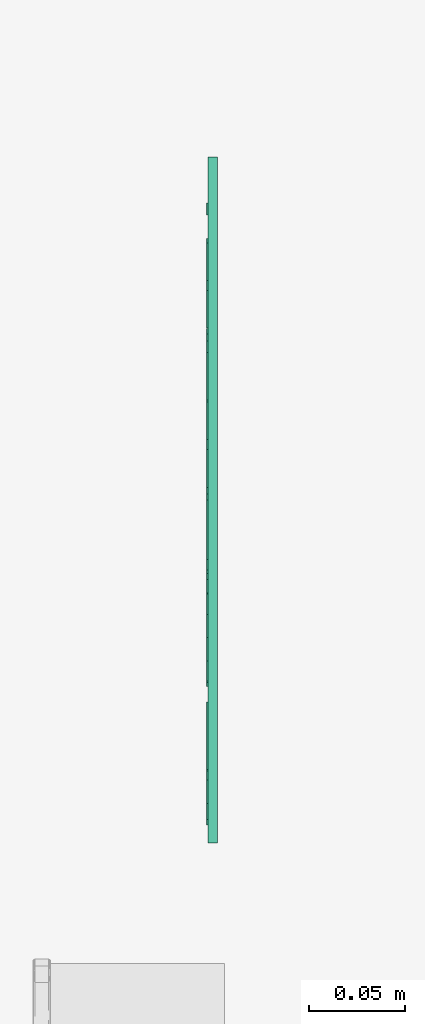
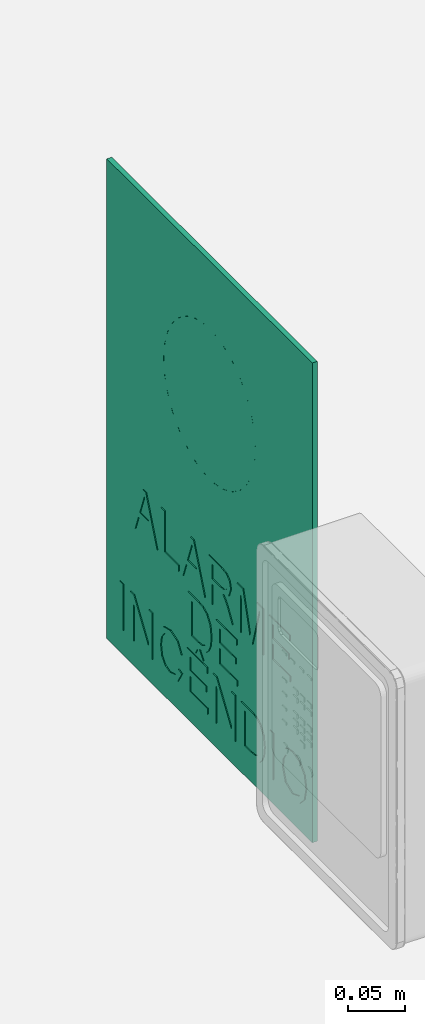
# One storey, part 4 of 6: 1 flow terminal.
"""IFC2X3 building model written with IfcOpenShell, lengths in metres."""

from ifc_helpers import new_model, entity, si_unit, converted_unit, derived_unit, direction, frame, frame_2d, origin, place, context, subcontext, project, spatial, polyline, circle_curve, parameter, trimmed, segment, composite_curve, rectangle, circle, hollow_circle, outline, extrude, source, transform, mapped, material, material_list, type_object, type_shapes, element, save


model = new_model("IFC2X3")

# Units and contexts
model_context = context("Model", 3, precision=1e-05, world=origin(), true_north=direction((6.12303176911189e-17, 1.0)))
body_context = subcontext(model_context, "Body", "Model", "MODEL_VIEW")
ifc_project = project(units=[si_unit("LENGTHUNIT", "METRE"), si_unit("AREAUNIT", "SQUARE_METRE"), si_unit("VOLUMEUNIT", "CUBIC_METRE"), converted_unit("PLANEANGLEUNIT", "DEGREE", entity("IfcRatioMeasure", 0.0174532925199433), si_unit("PLANEANGLEUNIT", "RADIAN"), dimensions=[0, 0, 0, 0, 0, 0, 0]), si_unit("MASSUNIT", "GRAM", prefix="KILO"), derived_unit("MASSDENSITYUNIT", [(si_unit("MASSUNIT", "GRAM", prefix="KILO"), 1), (si_unit("LENGTHUNIT", "METRE"), -3)]), derived_unit("MOMENTOFINERTIAUNIT", [(si_unit("LENGTHUNIT", "METRE"), 4)]), si_unit("TIMEUNIT", "SECOND"), si_unit("FREQUENCYUNIT", "HERTZ"), si_unit("THERMODYNAMICTEMPERATUREUNIT", "DEGREE_CELSIUS"), derived_unit("THERMALTRANSMITTANCEUNIT", [(si_unit("MASSUNIT", "GRAM", prefix="KILO"), 1), (si_unit("THERMODYNAMICTEMPERATUREUNIT", "KELVIN"), -1), (si_unit("TIMEUNIT", "SECOND"), -3)]), derived_unit("VOLUMETRICFLOWRATEUNIT", [(si_unit("LENGTHUNIT", "METRE"), 3), (si_unit("TIMEUNIT", "SECOND"), -1)]), si_unit("ELECTRICCURRENTUNIT", "AMPERE"), si_unit("ELECTRICVOLTAGEUNIT", "VOLT"), si_unit("POWERUNIT", "WATT"), si_unit("FORCEUNIT", "NEWTON", prefix="KILO"), si_unit("ILLUMINANCEUNIT", "LUX"), si_unit("LUMINOUSFLUXUNIT", "LUMEN"), si_unit("LUMINOUSINTENSITYUNIT", "CANDELA"), derived_unit("USERDEFINED", [(si_unit("MASSUNIT", "GRAM", prefix="KILO"), -1), (si_unit("LENGTHUNIT", "METRE"), -2), (si_unit("TIMEUNIT", "SECOND"), 3), (si_unit("LUMINOUSFLUXUNIT", "LUMEN"), 1)]), derived_unit("LINEARVELOCITYUNIT", [(si_unit("LENGTHUNIT", "METRE"), 1), (si_unit("TIMEUNIT", "SECOND"), -1)]), si_unit("PRESSUREUNIT", "PASCAL"), derived_unit("USERDEFINED", [(si_unit("LENGTHUNIT", "METRE"), -2), (si_unit("MASSUNIT", "GRAM", prefix="KILO"), 1), (si_unit("TIMEUNIT", "SECOND"), -2)]), derived_unit("LINEARFORCEUNIT", [(si_unit("MASSUNIT", "GRAM", prefix="KILO"), 1), (si_unit("LENGTHUNIT", "METRE"), 1), (si_unit("TIMEUNIT", "SECOND"), -2), (si_unit("LENGTHUNIT", "METRE"), -1)]), derived_unit("PLANARFORCEUNIT", [(si_unit("MASSUNIT", "GRAM", prefix="KILO"), 1), (si_unit("LENGTHUNIT", "METRE"), 1), (si_unit("TIMEUNIT", "SECOND"), -2), (si_unit("LENGTHUNIT", "METRE"), -2)])], contexts=[model_context])

# Site, building, storey
site_placement = place(None, origin())
site = spatial("IfcSite", under=ifc_project, at=site_placement, Name="Default", CompositionType="ELEMENT")
building_placement = place(site_placement, origin())
building = spatial("IfcBuilding", under=site, at=building_placement, Name="C.L. MONSENHOR ANTÔNIO SAMPAIO", CompositionType="ELEMENT")
storey_placement = place(building_placement, frame((0.0, 0.0, 3.42)))
storey = spatial("IfcBuildingStorey", under=building, at=storey_placement, Name="Planta Baixa - Incêndio - Pav. Sup.", CompositionType="ELEMENT", Elevation=3.42)

# Flow terminal
ifc_material_1 = material(Name="VERMELHO")
ifc_material_2 = material(Name="Branco")
ifc_material_list = material_list([ifc_material_1, ifc_material_2])
distribution_element_type = type_object("IfcDistributionElementType", Name="E2:10 metros", material=ifc_material_1)
shared_shape = source(origin(), body_context, "Body", "SweptSolid", [
    extrude(outline(polyline([(-0.115, -0.115), (0.115, -0.115), (0.115, 0.115), (-0.115, 0.115), (-0.115, -0.115)]), holes=[polyline([(-0.0969999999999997, 0.097), (0.0969999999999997, 0.097), (0.0969999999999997, -0.097), (-0.0969999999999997, -0.097), (-0.0969999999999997, 0.097)])]), frame((0.0, -0.005, 0.353240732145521), z_axis=(0.0, 1.0, 0.0), x_axis=(0.0, 0.0, -1.0)), (0.0, 0.0, 1.0), 0.005),
    extrude(hollow_circle(Radius=0.08, WallThickness=0.05, at=frame_2d((3.96523122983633e-19, -4.06075173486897e-16), x_axis=(1.0, 0.0))), frame((0.0, -0.005, 0.357999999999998), z_axis=(0.0, 1.0, 0.0), x_axis=(1.0, 0.0, 0.0)), (0.0, 0.0, 1.0), 0.005),
    extrude(outline(polyline([(-0.0232588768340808, -0.0146945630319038), (0.0297491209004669, -0.0146945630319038), (0.0316918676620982, -0.00982759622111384), (-0.00674552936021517, 0.0266746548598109), (-0.00915613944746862, 0.0206355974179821), (0.0030424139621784, 0.00969678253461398), (-0.00447459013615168, -0.00913480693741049), (-0.0208482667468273, -0.00865550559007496), (-0.0232588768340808, -0.0146945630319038)]), holes=[polyline([(0.00207844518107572, -0.009317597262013), (0.00792450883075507, 0.00532795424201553), (0.0175212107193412, -0.00327813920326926), (0.0250051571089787, -0.00997968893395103), (0.0160884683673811, -0.00972047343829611), (0.00207844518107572, -0.009317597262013)])]), frame((-0.111952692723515, -0.006, 0.16473474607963), z_axis=(0.0, 1.0, 0.0), x_axis=(0.370725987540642, 0.0, 0.92874229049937)), (0.0, 0.0, 1.0), 0.006),
    extrude(outline(polyline([(-0.0184615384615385, -0.0123076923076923), (0.0307692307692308, -0.0123076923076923), (0.0307692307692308, -0.00615384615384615), (-0.0123076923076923, -0.00615384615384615), (-0.0123076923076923, 0.0184615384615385), (-0.0184615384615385, 0.0184615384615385), (-0.0184615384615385, -0.0123076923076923)])), frame((-0.0707973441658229, -0.006, 0.167042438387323), z_axis=(0.0, 1.0, 0.0), x_axis=(0.0, 0.0, 1.0)), (0.0, 0.0, 1.0), 0.006),
    extrude(outline(polyline([(-0.0232588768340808, -0.0146945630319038), (0.0297491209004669, -0.0146945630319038), (0.0316918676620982, -0.00982759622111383), (-0.00674552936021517, 0.0266746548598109), (-0.00915613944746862, 0.0206355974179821), (0.0030424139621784, 0.00969678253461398), (-0.00447459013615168, -0.00913480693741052), (-0.0208482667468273, -0.00865550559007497), (-0.0232588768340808, -0.0146945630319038)]), holes=[polyline([(0.00207844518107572, -0.00931759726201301), (0.00792450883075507, 0.00532795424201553), (0.0175212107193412, -0.00327813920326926), (0.0250051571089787, -0.00997968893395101), (0.0160884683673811, -0.00972047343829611), (0.00207844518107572, -0.00931759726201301)])]), frame((-0.0288757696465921, -0.006, 0.16473474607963), z_axis=(0.0, 1.0, 0.0), x_axis=(0.370725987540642, 0.0, 0.92874229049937)), (0.0, 0.0, 1.0), 0.006),
    extrude(outline(polyline([(-0.0220657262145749, -0.0231072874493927), (0.0271650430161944, -0.0231072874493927), (0.0271650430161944, -0.0018933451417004), (0.0258369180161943, 0.0079564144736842), (0.0211373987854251, 0.0133410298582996), (0.0136914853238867, 0.0153542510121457), (0.00482129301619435, 0.0120189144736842), (0.000241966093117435, 0.0017124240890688), (-0.00239024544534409, 0.005210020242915), (-0.00872438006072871, 0.0101980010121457), (-0.0220657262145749, 0.0184071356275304), (-0.0220657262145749, 0.0112556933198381), (-0.0118613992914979, 0.00484944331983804), (-0.00510659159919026, 0.000222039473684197), (-0.00191548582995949, -0.00302916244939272), (-0.000743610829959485, -0.00595584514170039), (-0.000527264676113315, -0.00952555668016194), (-0.000527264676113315, -0.0169534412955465), (-0.0220657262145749, -0.0169534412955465), (-0.0220657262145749, -0.0231072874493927)]), holes=[polyline([(0.00562658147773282, -0.0169534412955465), (0.00562658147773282, -0.00317940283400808), (0.00649797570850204, 0.00384583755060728), (0.0092864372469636, 0.00783622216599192), (0.0134631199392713, 0.00920040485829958), (0.0188837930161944, 0.00659824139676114), (0.0210111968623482, -0.0016289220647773), (0.0210111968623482, -0.0169534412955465), (0.00562658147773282, -0.0169534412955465)])]), frame((0.0230791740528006, -0.006, 0.170646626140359), z_axis=(0.0, 1.0, 0.0), x_axis=(0.0, 0.0, 1.0)), (0.0, 0.0, 1.0), 0.006),
    extrude(outline(polyline([(-0.0213349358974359, -0.0227035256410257), (0.0278958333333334, -0.0227035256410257), (0.0278958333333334, -0.0121145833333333), (-0.00680368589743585, -0.00204246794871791), (-0.014051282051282, -1.12179487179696e-05), (-0.00620272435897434, 0.00218830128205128), (0.0278958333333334, 0.0120921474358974), (0.0278958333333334, 0.0226810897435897), (-0.0213349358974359, 0.0226810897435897), (-0.0213349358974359, 0.0165272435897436), (0.0217419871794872, 0.0165272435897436), (-0.0213349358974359, 0.00415945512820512), (-0.0213349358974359, -0.00418189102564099), (0.0217419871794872, -0.0165496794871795), (-0.0213349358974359, -0.0165496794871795), (-0.0213349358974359, -0.0227035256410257)])), frame((0.0719061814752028, -0.006, 0.16991583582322), z_axis=(0.0, 1.0, 0.0), x_axis=(0.0, 0.0, 1.0)), (0.0, 0.0, 1.0), 0.006),
    extrude(outline(polyline([(-0.0248717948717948, -0.0196153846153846), (0.0243589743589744, -0.0196153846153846), (0.0243589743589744, 0.0157692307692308), (0.0182051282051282, 0.0157692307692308), (0.0182051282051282, -0.0134615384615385), (0.0035897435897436, -0.0134615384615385), (0.0035897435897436, 0.0142307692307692), (-0.00256410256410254, 0.0142307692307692), (-0.00256410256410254, -0.0134615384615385), (-0.0187179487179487, -0.0134615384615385), (-0.0187179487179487, 0.0165384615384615), (-0.0248717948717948, 0.0165384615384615), (-0.0248717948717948, -0.0196153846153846)])), frame((0.124971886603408, -0.006, 0.173452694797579), z_axis=(0.0, 1.0, 0.0), x_axis=(0.0, 0.0, 1.0)), (0.0, 0.0, 1.0), 0.006),
    extrude(outline(polyline([(-0.0233603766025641, -0.0255023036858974), (0.0258703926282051, -0.0255023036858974), (0.0258703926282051, -0.00851913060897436), (0.0251612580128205, 0.000266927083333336), (0.0216396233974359, 0.00750250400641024), (0.0132261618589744, 0.0133318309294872), (0.00151943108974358, 0.0152669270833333), (-0.00841446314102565, 0.0139568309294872), (-0.0155839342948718, 0.0105914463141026), (-0.020049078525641, 0.00609625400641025), (-0.022519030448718, 0.000212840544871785), (-0.0233603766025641, -0.00770182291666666), (-0.0233603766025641, -0.0255023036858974)]), holes=[polyline([(-0.017206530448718, -0.0193484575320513), (-0.017206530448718, -0.00845903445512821), (-0.0163171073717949, -0.000538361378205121), (-0.0138050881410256, 0.00402894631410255), (-0.00769330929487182, 0.00777293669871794), (0.00161558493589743, 0.00911308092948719), (0.0132742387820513, 0.00648687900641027), (0.018730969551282, 9.86578525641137e-05), (0.019716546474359, -0.00862730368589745), (0.019716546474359, -0.0193484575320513), (-0.017206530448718, -0.0193484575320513)])]), frame((-0.0106796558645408, -0.006, 0.111172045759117), z_axis=(0.0, 1.0, 0.0), x_axis=(0.0, 0.0, 1.0)), (0.0, 0.0, 1.0), 0.006),
    extrude(outline(polyline([(-0.0248717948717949, -0.0196153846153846), (0.0243589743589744, -0.0196153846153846), (0.0243589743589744, 0.0157692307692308), (0.0182051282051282, 0.0157692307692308), (0.0182051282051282, -0.0134615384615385), (0.00358974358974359, -0.0134615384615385), (0.00358974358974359, 0.0142307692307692), (-0.00256410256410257, 0.0142307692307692), (-0.00256410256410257, -0.0134615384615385), (-0.0187179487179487, -0.0134615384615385), (-0.0187179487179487, 0.0165384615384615), (-0.0248717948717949, 0.0165384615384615), (-0.0248717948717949, -0.0196153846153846)])), frame((0.0326641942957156, -0.006, 0.112683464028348), z_axis=(0.0, 1.0, 0.0), x_axis=(0.0, 0.0, 1.0)), (0.0, 0.0, 1.0), 0.006),
    extrude(rectangle(XDim=0.006, YDim=0.00615384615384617, at=frame_2d((0.0, -1.69135538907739e-17), x_axis=(1.0, 0.0))), frame((-0.151951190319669, -0.003, 0.0270424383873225), z_axis=(0.0, 0.0, 1.0), x_axis=(0.0, 1.0, 0.0)), (0.0, 0.0, 1.0), 0.0492307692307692),
    extrude(outline(polyline([(-0.0246165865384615, -0.0192307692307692), (0.0246141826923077, -0.0192307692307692), (0.0246141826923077, -0.0126442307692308), (-0.0143882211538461, 0.0130769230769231), (0.0246141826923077, 0.0130769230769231), (0.0246141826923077, 0.0192307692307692), (-0.0246165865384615, 0.0192307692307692), (-0.0246165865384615, 0.0126442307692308), (0.0143978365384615, -0.0130769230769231), (-0.0246165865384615, -0.0130769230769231), (-0.0246165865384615, -0.0192307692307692)])), frame((-0.117335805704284, -0.006, 0.0516590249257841), z_axis=(0.0, 1.0, 0.0), x_axis=(0.0, 0.0, 1.0)), (0.0, 0.0, 1.0), 0.006),
    extrude(outline(polyline([(0.0173971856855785, 0.00315678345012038), (0.0237522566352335, 0.00315678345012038), (0.0197857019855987, 0.0169950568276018), (0.00837577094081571, 0.0243492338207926), (-0.00483237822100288, 0.0244155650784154), (-0.014444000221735, 0.0172244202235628), (-0.0202261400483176, 0.00512371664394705), (-0.0207434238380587, -0.00855775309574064), (-0.0148834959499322, -0.0190239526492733), (-0.00417070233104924, -0.0248454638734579), (0.00872193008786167, -0.0242098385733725), (0.0181494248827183, -0.0154941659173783), (0.0125565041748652, -0.0125379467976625), (0.00577939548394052, -0.0186042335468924), (-0.00286717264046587, -0.0188264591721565), (-0.011532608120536, -0.0138741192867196), (-0.0150347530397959, -0.00567282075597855), (-0.0142701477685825, 0.00357577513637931), (-0.0098254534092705, 0.0133774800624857), (-0.00253642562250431, 0.018492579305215), (0.00624589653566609, 0.0185432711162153), (0.0146026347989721, 0.0132360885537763), (0.0173971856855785, 0.00315678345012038)])), frame((-0.0687786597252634, -0.006, 0.0519424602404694), z_axis=(0.0, 1.0, 0.0), x_axis=(0.968336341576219, 0.0, -0.249649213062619)), (0.0, 0.0, 1.0), 0.006),
    extrude(outline(polyline([(-0.0248717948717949, -0.0196153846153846), (0.0243589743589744, -0.0196153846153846), (0.0243589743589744, 0.0157692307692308), (0.0182051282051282, 0.0157692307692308), (0.0182051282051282, -0.0134615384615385), (0.0035897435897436, -0.0134615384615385), (0.0035897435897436, 0.0142307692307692), (-0.00256410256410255, 0.0142307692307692), (-0.00256410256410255, -0.0134615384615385), (-0.0187179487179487, -0.0134615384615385), (-0.0187179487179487, 0.0165384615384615), (-0.0248717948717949, 0.0165384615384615), (-0.0248717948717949, -0.0196153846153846)])), frame((-0.0184896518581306, -0.006, 0.0519142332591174), z_axis=(0.0, 1.0, 0.0), x_axis=(0.0, 0.0, 1.0)), (0.0, 0.0, 1.0), 0.006),
    extrude(outline(polyline([(-0.0246165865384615, -0.0192307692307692), (0.0246141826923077, -0.0192307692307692), (0.0246141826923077, -0.0126442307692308), (-0.0143882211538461, 0.0130769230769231), (0.0246141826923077, 0.0130769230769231), (0.0246141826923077, 0.0192307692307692), (-0.0246165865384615, 0.0192307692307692), (-0.0246165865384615, 0.0126442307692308), (0.0143978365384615, -0.0130769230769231), (-0.0246165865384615, -0.0130769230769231), (-0.0246165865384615, -0.0192307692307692)])), frame((0.0265103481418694, -0.006, 0.0516590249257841), z_axis=(0.0, 1.0, 0.0), x_axis=(0.0, 0.0, 1.0)), (0.0, 0.0, 1.0), 0.006),
    extrude(outline(polyline([(-0.0233603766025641, -0.0255023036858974), (0.0258703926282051, -0.0255023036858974), (0.0258703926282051, -0.00851913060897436), (0.0251612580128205, 0.000266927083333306), (0.0216396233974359, 0.00750250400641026), (0.0132261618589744, 0.0133318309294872), (0.0015194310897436, 0.0152669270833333), (-0.00841446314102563, 0.0139568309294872), (-0.0155839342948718, 0.0105914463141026), (-0.020049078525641, 0.00609625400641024), (-0.0225190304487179, 0.000212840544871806), (-0.0233603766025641, -0.00770182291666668), (-0.0233603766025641, -0.0255023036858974)]), holes=[polyline([(-0.0172065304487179, -0.0193484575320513), (-0.0172065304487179, -0.00845903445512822), (-0.0163171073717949, -0.000538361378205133), (-0.0138050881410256, 0.00402894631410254), (-0.00769330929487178, 0.00777293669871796), (0.00161558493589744, 0.00911308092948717), (0.0132742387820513, 0.00648687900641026), (0.0187309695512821, 9.8657852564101e-05), (0.019716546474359, -0.00862730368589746), (0.019716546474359, -0.0193484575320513), (-0.0172065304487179, -0.0193484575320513)])]), frame((0.0820126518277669, -0.006, 0.0504028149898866), z_axis=(0.0, 1.0, 0.0), x_axis=(0.0, 0.0, 1.0)), (0.0, 0.0, 1.0), 0.006),
    extrude(rectangle(XDim=0.006, YDim=0.00615384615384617, at=frame_2d((0.0, 1.69135538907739e-17), x_axis=(1.0, 0.0))), frame((0.109587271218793, -0.003, 0.0270424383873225), z_axis=(0.0, 0.0, 1.0), x_axis=(0.0, 1.0, 0.0)), (0.0, 0.0, 1.0), 0.0492307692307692),
    extrude(outline(polyline([(-0.00518332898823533, -0.0217127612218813), (0.00582601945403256, -0.0217127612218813), (0.0147036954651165, -0.0180732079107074), (0.0209490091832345, -0.011414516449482), (0.0240612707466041, -0.00235710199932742), (0.0226774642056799, 0.0102373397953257), (0.0149674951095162, 0.0198104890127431), (0.00236779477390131, 0.0246021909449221), (-0.011285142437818, 0.0236149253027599), (-0.0213755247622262, 0.0165055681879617), (-0.0261464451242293, 0.00517292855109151), (-0.0246813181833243, -0.0075674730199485), (-0.0168809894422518, -0.0171056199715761), (-0.00518332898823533, -0.0217127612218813)]), holes=[polyline([(-0.0043257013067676, -0.0156186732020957), (-0.0170104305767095, -0.00872958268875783), (-0.0200666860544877, 0.00422022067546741), (-0.0132660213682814, 0.0157939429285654), (0.00149828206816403, 0.018509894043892), (0.0112294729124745, 0.0149284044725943), (0.0169683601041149, 0.00788273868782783), (0.0179815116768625, -0.00140439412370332), (0.0116103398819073, -0.0128301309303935), (0.00497091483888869, -0.0157221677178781), (-0.0043257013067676, -0.0156186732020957)])]), frame((0.144906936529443, -0.006, 0.052898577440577), z_axis=(0.0, 1.0, 0.0), x_axis=(0.149021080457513, 0.0, 0.988834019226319)), (0.0, 0.0, 1.0), 0.006),
    extrude(outline(polyline([(-0.00219091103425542, 0.00148455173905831), (0.00486968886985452, 0.00148455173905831), (0.00788668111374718, 0.00684809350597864), (-0.00336418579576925, 0.00567481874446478), (-0.0063811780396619, 0.000311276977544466), (-0.00191854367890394, -0.0105834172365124), (0.00109844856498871, -0.00521987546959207), (-0.00219091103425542, 0.00148455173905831)])), frame((-0.0194237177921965, -0.006, 0.0828666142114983), z_axis=(0.0, 1.0, 0.0), x_axis=(-0.490261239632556, 0.0, -0.871575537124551)), (0.0, 0.0, 1.0), 0.006),
    extrude(outline(polyline([(-0.179, -0.255), (0.179000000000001, -0.255), (0.179000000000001, 0.255), (-0.179000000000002, 0.255), (-0.179, -0.255)]), holes=[polyline([(-0.115, 0.213240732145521), (0.115, 0.213240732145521), (0.115, -0.0167592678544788), (-0.115, -0.0167592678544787), (-0.115, 0.213240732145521)])]), frame((0.0, -0.005, 0.255), z_axis=(0.0, 1.0, 0.0), x_axis=(-1.0, 0.0, 0.0)), (0.0, 0.0, 1.0), 0.005),
    extrude(outline(polyline([(-0.097, -0.0969999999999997), (0.097, -0.0969999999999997), (0.097, 0.0969999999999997), (-0.097, 0.0969999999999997), (-0.097, -0.0969999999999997)]), holes=[composite_curve([segment(trimmed(circle_curve(frame_2d((0.0, -0.00475926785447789), x_axis=(1.0, 0.0)), 0.08), [parameter(180.0)], [parameter(360.0)], True, "PARAMETER"), False, "CONTINUOUS"), segment(trimmed(circle_curve(frame_2d((0.0, -0.00475926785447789), x_axis=(1.0, 0.0)), 0.08), [parameter(0.0)], [parameter(180.0)], True, "PARAMETER"), False, "CONTINUOUS")], self_intersect=False)]), frame((0.0, -0.005, 0.353240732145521), z_axis=(0.0, 1.0, 0.0), x_axis=(1.0, 0.0, 0.0)), (0.0, 0.0, 1.0), 0.005),
    extrude(circle(Radius=0.03, at=frame_2d((0.0, -1.35358391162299e-16), x_axis=(1.0, 0.0))), frame((0.0, -0.005, 0.357999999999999), z_axis=(0.0, 1.0, 0.0), x_axis=(1.0, 0.0, 0.0)), (0.0, 0.0, 1.0), 0.005),
])
type_shapes(distribution_element_type, [shared_shape])
flow_terminal_placement = place(storey_placement, frame((27.2491614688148, 26.4574886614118, 1.2), z_axis=(0.0, 0.0, 1.0), x_axis=(0.0, -1.0, 0.0)))
element("IfcFlowTerminal", 1, at=flow_terminal_placement, inside=storey, type_object=distribution_element_type, material=ifc_material_list, Name="E2:10 metros", ObjectType="E2:10 metros", context=body_context, shape_type="MappedRepresentation", body=[
    mapped(shared_shape, transform((0.0, 0.0, 0.0), scale=1.0)),
])

save(model, "model.ifc")
